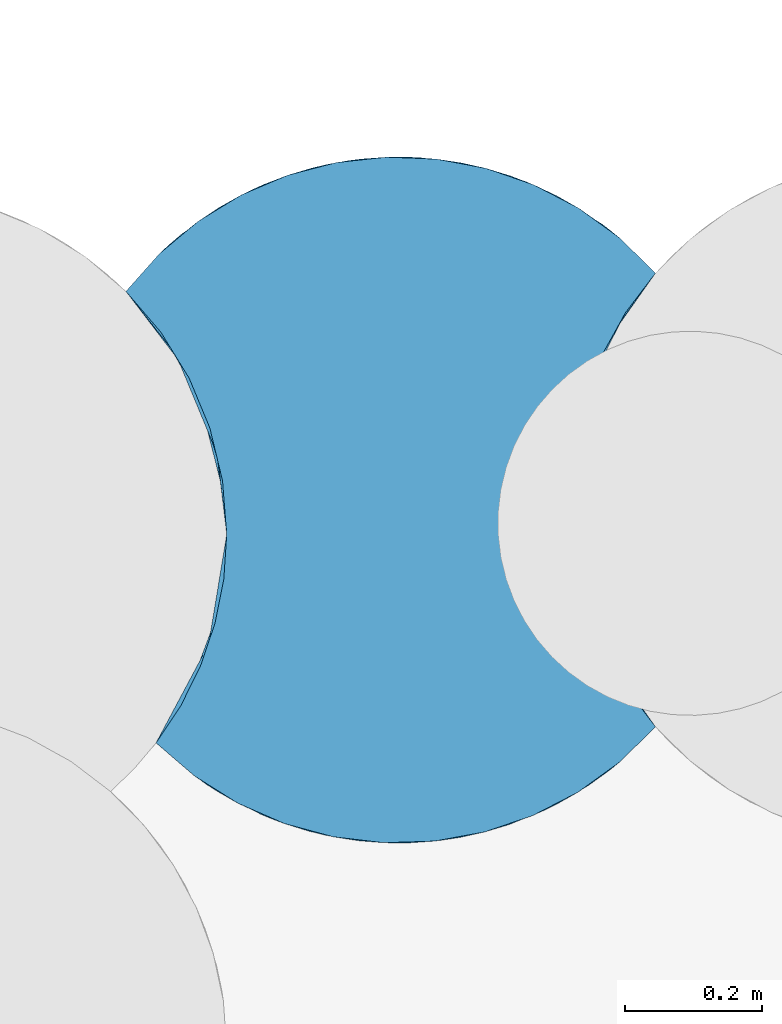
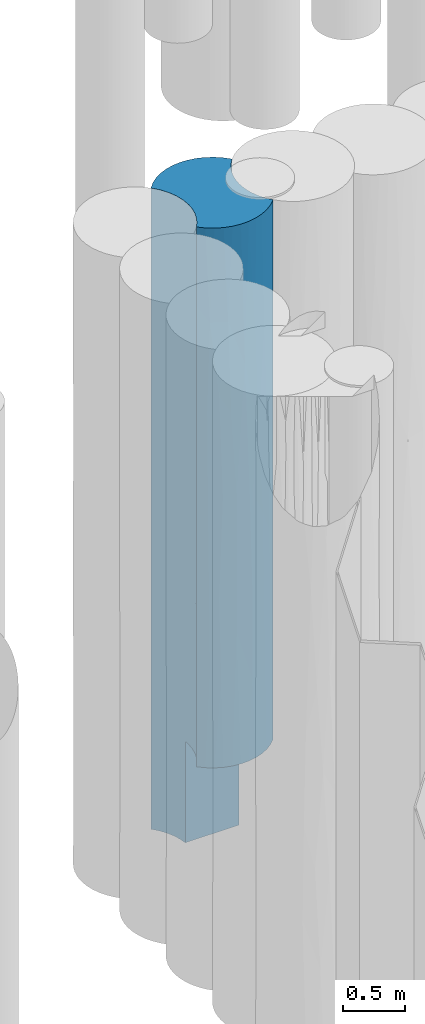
# One storey, part 80 of 104: 1 pile.
"""IFC2X3 building model written with IfcOpenShell, lengths in millimetres."""

from ifc_helpers import new_model, entity, si_unit, converted_unit, derived_unit, direction, frame, origin, place, context, subcontext, project, spatial, faceted_brep, source, transform, mapped, material, element, save


model = new_model("IFC2X3")

# Units and contexts
model_context = context("Model", 3, precision=0.01, world=origin(), true_north=direction((6.12303176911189e-17, 1.0)))
body_context = subcontext(model_context, "Body", "Model", "MODEL_VIEW")
ifc_project = project(units=[si_unit("LENGTHUNIT", "METRE", prefix="MILLI"), si_unit("AREAUNIT", "SQUARE_METRE", prefix="MILLI"), si_unit("VOLUMEUNIT", "CUBIC_METRE"), converted_unit("PLANEANGLEUNIT", "DEGREE", entity("IfcRatioMeasure", 0.0174532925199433), si_unit("PLANEANGLEUNIT", "RADIAN"), dimensions=[0, 0, 0, 0, 0, 0, 0]), si_unit("MASSUNIT", "GRAM", prefix="KILO"), derived_unit("MASSDENSITYUNIT", [(si_unit("MASSUNIT", "GRAM", prefix="KILO"), 1), (si_unit("LENGTHUNIT", "METRE"), -3)]), derived_unit("MOMENTOFINERTIAUNIT", [(si_unit("LENGTHUNIT", "METRE"), 4)]), si_unit("TIMEUNIT", "SECOND"), si_unit("FREQUENCYUNIT", "HERTZ"), si_unit("THERMODYNAMICTEMPERATUREUNIT", "DEGREE_CELSIUS"), derived_unit("THERMALTRANSMITTANCEUNIT", [(si_unit("MASSUNIT", "GRAM", prefix="KILO"), 1), (si_unit("THERMODYNAMICTEMPERATUREUNIT", "KELVIN"), -1), (si_unit("TIMEUNIT", "SECOND"), -3)]), derived_unit("VOLUMETRICFLOWRATEUNIT", [(si_unit("LENGTHUNIT", "METRE"), 3), (si_unit("TIMEUNIT", "SECOND"), -1)]), si_unit("ELECTRICCURRENTUNIT", "AMPERE"), si_unit("ELECTRICVOLTAGEUNIT", "VOLT"), si_unit("POWERUNIT", "WATT"), si_unit("FORCEUNIT", "NEWTON", prefix="KILO"), si_unit("ILLUMINANCEUNIT", "LUX"), si_unit("LUMINOUSFLUXUNIT", "LUMEN"), si_unit("LUMINOUSINTENSITYUNIT", "CANDELA"), derived_unit("USERDEFINED", [(si_unit("MASSUNIT", "GRAM", prefix="KILO"), -1), (si_unit("LENGTHUNIT", "METRE"), -2), (si_unit("TIMEUNIT", "SECOND"), 3), (si_unit("LUMINOUSFLUXUNIT", "LUMEN"), 1)]), derived_unit("LINEARVELOCITYUNIT", [(si_unit("LENGTHUNIT", "METRE"), 1), (si_unit("TIMEUNIT", "SECOND"), -1)]), si_unit("PRESSUREUNIT", "PASCAL"), derived_unit("USERDEFINED", [(si_unit("LENGTHUNIT", "METRE"), -2), (si_unit("MASSUNIT", "GRAM", prefix="KILO"), 1), (si_unit("TIMEUNIT", "SECOND"), -2)]), derived_unit("LINEARFORCEUNIT", [(si_unit("MASSUNIT", "GRAM", prefix="KILO"), 1), (si_unit("LENGTHUNIT", "METRE"), 1), (si_unit("TIMEUNIT", "SECOND"), -2), (si_unit("LENGTHUNIT", "METRE"), -1)]), derived_unit("PLANARFORCEUNIT", [(si_unit("MASSUNIT", "GRAM", prefix="KILO"), 1), (si_unit("LENGTHUNIT", "METRE"), 1), (si_unit("TIMEUNIT", "SECOND"), -2), (si_unit("LENGTHUNIT", "METRE"), -2)])], contexts=[model_context])

# Site, building, storey
site_placement = place(None, origin())
site = spatial("IfcSite", under=ifc_project, at=site_placement, Name="Theater aan de Parade", CompositionType="ELEMENT")
building_placement = place(site_placement, origin())
building = spatial("IfcBuilding", under=site, at=building_placement, Name="Theater aan de Parade", CompositionType="ELEMENT")
storey_placement = place(building_placement, frame((0.0, 0.0, -5520.0)))
storey = spatial("IfcBuildingStorey", under=building, at=storey_placement, Name="-2 kelder", CompositionType="ELEMENT", Elevation=-5520.0)

# Pile
ifc_material = material(Name="00_PBT_MAT_grout")
shared_shape = source(origin(), body_context, "Body", "Brep", [
    faceted_brep([(669.280102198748, 643.692684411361, 0.0), (653.745782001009, 573.172869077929, 0.0), (648.531422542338, 501.150859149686, 0.0), (146.02514109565, 501.150859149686, 0.0), (134.497160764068, 568.782918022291, 0.0), (113.819437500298, 634.200205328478, 0.0), (84.3812906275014, 696.171047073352, 0.0), (46.7369803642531, 753.528658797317, 0.0), (1.59527223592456, 805.19311374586, 0.0), (50.4483015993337, 860.091161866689, 0.0), (106.817064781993, 907.233034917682, 0.0), (169.486265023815, 945.603686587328, 0.0), (237.10234460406, 974.374540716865, 0.0), (308.204958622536, 992.924313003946, 0.0), (381.258495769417, 1000.85241608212, 0.0), (454.685222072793, 997.987603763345, 0.0), (526.899333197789, 984.391668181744, 0.0), (596.341181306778, 960.3581101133, 0.0), (661.510929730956, 926.40581655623, 0.0), (721.00082295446, 883.267969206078, 0.0), (773.531422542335, 831.869773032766, 0.0), (729.804110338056, 774.404290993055, 0.0), (694.810377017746, 711.239442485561, 0.0), (773.531422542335, 831.86977303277, 1598.46190407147), (700.02916138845, 900.023161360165, 1506.2549526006), (773.531422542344, 831.869773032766, 2397.69312325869), (81.6234699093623, 887.892826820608, 3986.32464592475), (137.445814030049, 927.571197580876, 5136.41589520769), (202.765049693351, 961.232946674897, 4107.66645805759), (294.457511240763, 990.199548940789, 4262.67998551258), (294.753755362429, 990.262498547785, 3364.26999112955), (344.585885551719, 998.232219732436, 782.165133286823), (629.550634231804, 944.580812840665, 985.393697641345), (491.04238195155, 992.518056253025, 1341.1254474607), (629.550633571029, 944.580813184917, 2027.11620875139), (64.3630878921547, 873.080320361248, 1757.87392908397), (1.59527223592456, 805.19311374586, 3123.07646876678), (82.130130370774, 888.307445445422, 2894.26996880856), (381.258496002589, 1000.85241609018, 6320.0), (272.312419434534, 984.957394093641, 5136.4161808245), (308.204958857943, 992.924313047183, 6320.0), (596.341181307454, 960.35811011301, 6320.0), (661.510929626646, 926.40581662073, 6320.0), (663.031767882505, 925.461555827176, 5288.51585784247), (773.531422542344, 831.869773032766, 4758.46217122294), (721.000822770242, 883.267969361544, 6320.0), (1.59527223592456, 805.19311374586, 5539.23354895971), (60.2521013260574, 869.345238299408, 5148.84671827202), (1.59527223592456, 805.19311374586, 4758.46709791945), (629.550633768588, 944.580813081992, 4319.67227975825), (562.062370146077, 973.652318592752, 5234.21176799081), (454.685222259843, 997.987603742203, 6320.0), (526.899333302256, 984.391668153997, 6320.0), (773.531422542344, 831.869773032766, 6320.0), (105.365814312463, 906.186568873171, 1031.4656015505), (202.765049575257, 961.232946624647, 1085.77101791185), (418.024558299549, 1000.77073231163, 4758.06670769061), (106.817064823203, 907.233034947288, 6320.0), (585.382827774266, 964.925106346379, 3173.39424534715), (529.474600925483, 983.700218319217, 2301.65075459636), (432.336769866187, 1000.00674865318, 2095.05429116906), (418.024557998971, 1000.77073232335, 3160.0), (1.59527223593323, 805.193113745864, 1561.53823438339), (1.59527223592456, 805.19311374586, 6320.0), (50.4483015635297, 860.091161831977, 6320.0), (137.445813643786, 927.571197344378, 2000.2938123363), (169.486265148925, 945.603686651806, 6320.0), (344.585885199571, 998.23221969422, 1634.20006567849), (241.9439728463, 975.998593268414, 2077.12554301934), (519.812148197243, 986.218880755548, 4227.82771910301), (324.890673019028, 995.698167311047, 2512.50190719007), (237.102344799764, 974.37454078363, 6320.0), (181.338240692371, 951.51418109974, 3014.95239338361), (695.625282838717, 903.314057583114, 2797.30898927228), (709.151045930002, 892.961335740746, 3800.79243316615), (773.531422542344, 831.86977303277, 3196.92434244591), (1.59527223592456, 805.193113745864, 3940.77444949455), (1.59527223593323, 805.19311374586, 4721.53785500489), (232.291799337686, 29.5955732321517, 1000.0), (213.628514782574, 36.5963255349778, 1826.14442974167), (164.409931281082, 59.3509866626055, 1000.0), (720.516371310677, 118.625444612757, 6320.0), (704.336620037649, 105.571308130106, 5465.17765710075), (773.531422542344, 170.431945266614, 5539.2311468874), (773.531422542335, 170.43194526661, 4123.07541245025), (675.788430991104, 85.0636672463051, 4107.15075635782), (488.22849625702, 9.2622183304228, 1793.72766917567), (594.589937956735, 41.1931887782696, 1000.0), (628.142599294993, 56.9901815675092, 2354.42351146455), (132.32201006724, 77.9103262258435, 5386.1372638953), (267.713122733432, 18.5676306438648, 5386.13793971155), (164.423464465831, 59.3438153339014, 6320.0), (340.475419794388, 4.53279610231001, 2308.15990667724), (340.47541987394, 4.53279609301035, 3659.99204726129), (225.924167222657, 31.888954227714, 3660.01304116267), (377.443337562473, 1.59576441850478, 1000.0), (451.523628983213, 3.96696353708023, 1000.0), (132.309122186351, 77.9184327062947, 1933.89177794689), (45.4675728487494, 147.108604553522, 1000.0), (101.672761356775, 98.814016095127, 1000.0), (524.446205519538, 17.2650591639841, 6320.0), (522.450913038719, 16.7502399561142, 5203.07778088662), (594.59296388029, 41.1944786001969, 6320.0), (303.826868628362, 10.2017299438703, 1000.0), (197.798760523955, 43.2137473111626, 2657.53450312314), (197.812529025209, 43.2077122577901, 4662.52996337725), (113.530997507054, 90.3288079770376, 4508.28230003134), (292.604383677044, 12.50020434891, 4481.47810935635), (414.537965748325, 1.40713425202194, 4924.46171028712), (559.963583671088, 27.9282293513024, 4225.68632366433), (660.431911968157, 75.2305219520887, 6320.0), (628.14396243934, 56.990886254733, 5189.64467852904), (303.840135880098, 10.1991708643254, 6320.0), (232.305710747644, 29.590669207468, 6320.0), (524.439926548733, 17.2634253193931, 1000.0), (101.684940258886, 98.8050303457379, 6320.0), (45.4675728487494, 147.108604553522, 6320.0), (45.4675728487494, 147.108604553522, 5539.21149102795), (488.228496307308, 9.26221833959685, 2657.54146388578), (708.328485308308, 108.689676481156, 2244.96593837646), (660.432099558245, 75.230637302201, 1000.0), (720.519207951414, 118.627832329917, 1000.0), (773.531422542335, 170.431945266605, 1000.0), (773.531422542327, 170.431945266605, 2561.53770622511), (705.148329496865, 106.200137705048, 3128.98710293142), (458.492471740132, 4.75920674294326, 3709.95372672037), (377.455000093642, 1.5952722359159, 6320.0), (451.532883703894, 3.96795003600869, 6320.0), (119.555399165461, 86.2142635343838, 3425.82575244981), (611.788200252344, 48.9102741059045, 3353.14422806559), (45.4675728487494, 147.108604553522, 2561.52004826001), (773.531422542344, 170.431945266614, 6320.0), (45.4675728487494, 147.108604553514, 1780.76885312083), (45.4675728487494, 147.108604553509, 4758.46229375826), (45.4675728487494, 147.108604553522, 4123.0590864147), (45.4675728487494, 147.108604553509, 3196.92458751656), (52.7143507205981, 745.491071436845, 6320.0), (93.8460786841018, 678.515889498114, 6320.0), (123.974092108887, 605.922523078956, 6320.0), (142.353928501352, 529.50475253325, 6320.0), (148.531422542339, 451.150859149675, 6320.0), (144.264979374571, 385.972330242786, 6320.0), (131.538460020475, 321.906123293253, 6320.0), (110.569052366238, 260.04557762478, 6320.0), (81.7146155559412, 201.446391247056, 6320.0), (729.804110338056, 227.897427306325, 6320.0), (694.810377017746, 291.062275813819, 6320.0), (669.280102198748, 358.609033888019, 6320.0), (653.745782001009, 429.128849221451, 6320.0), (648.531422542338, 501.15085914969, 6320.0), (653.745782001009, 573.172869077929, 6320.0), (669.280102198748, 643.692684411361, 6320.0), (694.810377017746, 711.239442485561, 6320.0), (729.804110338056, 774.404290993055, 6320.0), (721.102151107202, 760.581423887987, 1828.52230390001), (711.165461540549, 743.454421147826, 1002.25157471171), (680.824249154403, 677.92755433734, 5355.17937409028), (671.409705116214, 650.66629902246, 929.570312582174), (715.989740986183, 751.964921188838, 4844.99936183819), (658.227252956, 599.139742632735, 4844.9993624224), (680.824249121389, 677.927554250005, 4334.81935013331), (648.531422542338, 501.15085914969, 1000.0), (723.184164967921, 763.981052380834, 3842.56160797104), (648.531422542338, 501.15085914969, 4758.48418358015), (655.545193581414, 584.604906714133, 1600.95907645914), (648.531422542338, 501.15085914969, 2098.48418358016), (648.531422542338, 501.15085914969, 1780.7710240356), (676.303358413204, 665.469620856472, 3078.94410181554), (655.675147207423, 585.368979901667, 3842.56161014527), (680.824249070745, 677.927554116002, 1823.06885334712), (717.577020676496, 754.68252090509, 2931.36428802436), (648.531422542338, 501.15085914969, 3196.93362589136), (711.165461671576, 258.847296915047, 5404.38906469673), (660.238210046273, 393.588139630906, 5404.38906448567), (655.835360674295, 416.000459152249, 2802.03581962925), (660.238210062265, 393.588139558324, 1947.59403617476), (680.824249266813, 324.374163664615, 2700.69910412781), (711.16546170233, 258.847296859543, 1947.59403599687), (669.280102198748, 358.609033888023, 1000.0), (653.745782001, 429.128849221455, 1000.0), (722.798213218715, 238.946293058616, 4541.1974390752), (674.107764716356, 343.283215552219, 3696.32218316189), (718.394458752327, 246.234809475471, 3449.75322939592), (694.810377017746, 291.062275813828, 1000.0), (729.804110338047, 227.897427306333, 1000.0), (680.82424922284, 324.374163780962, 4691.94526257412), (656.366992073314, 412.979586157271, 4333.70688058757), (81.7146155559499, 201.44639124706, 1000.0), (110.569052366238, 260.045577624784, 1000.0), (131.538460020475, 321.906123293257, 1000.0), (144.264979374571, 385.97233024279, 1000.0), (148.531422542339, 451.150859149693, 1000.0), (147.904459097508, 476.1822466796, 1000.0), (146.02514109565, 501.150859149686, 1000.0), (74.5982653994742, 712.812941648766, 5305.76166276), (137.247945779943, 556.773583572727, 2031.91312827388), (110.33869986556, 642.81211921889, 4507.83280956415), (134.667888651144, 568.075348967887, 5305.76166664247), (66.5440861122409, 725.496285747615, 935.17204429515), (100.164533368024, 665.691142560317, 1694.12834463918), (110.363320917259, 642.752784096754, 860.650469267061), (148.531422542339, 451.150859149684, 5539.23113672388), (62.3738676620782, 731.747421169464, 4391.64493333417), (104.601654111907, 656.089737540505, 2589.24070859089), (133.987218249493, 570.869990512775, 3342.30657122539), (148.53142254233, 451.150859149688, 2561.53772655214), (148.531422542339, 451.150859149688, 4123.07545310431), (57.0738603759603, 739.409556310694, 2411.9905592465), (139.266468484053, 546.958555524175, 4399.35631100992), (83.1736566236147, 698.306940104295, 3377.45506581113), (92.0872790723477, 220.373472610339, 3977.69344070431), (122.064987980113, 290.633064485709, 2473.80719834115), (122.064987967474, 290.633064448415, 4846.19280112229), (134.654856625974, 334.172199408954, 3790.74748719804)], [[[0, 1, 2, 3, 4, 5, 6, 7, 8, 9, 10, 11, 12, 13, 14, 15, 16, 17, 18, 19, 20, 21, 22]], [[23, 24, 25]], [[26, 27, 28]], [[28, 29, 30]], [[31, 15, 14]], [[19, 18, 32]], [[33, 34, 32]], [[35, 36, 37]], [[15, 33, 16]], [[38, 39, 40]], [[41, 42, 43]], [[24, 19, 32]], [[44, 43, 45]], [[15, 31, 33]], [[18, 17, 32]], [[46, 47, 48]], [[49, 50, 43]], [[51, 52, 50]], [[53, 44, 45]], [[20, 19, 23]], [[43, 50, 41]], [[11, 54, 55]], [[52, 41, 50]], [[14, 13, 31]], [[56, 38, 51]], [[47, 57, 27]], [[58, 34, 59]], [[33, 60, 59]], [[61, 30, 29]], [[9, 8, 62]], [[63, 64, 46]], [[65, 55, 54]], [[66, 27, 57]], [[67, 55, 68]], [[54, 11, 10]], [[64, 57, 47]], [[55, 12, 11]], [[39, 38, 56]], [[61, 69, 58]], [[28, 27, 39]], [[56, 50, 69]], [[62, 54, 9]], [[68, 30, 70]], [[40, 39, 71]], [[39, 66, 71]], [[37, 26, 72]], [[66, 39, 27]], [[73, 58, 74]], [[31, 12, 55]], [[73, 74, 75]], [[32, 16, 33]], [[69, 50, 49]], [[51, 50, 56]], [[68, 55, 65]], [[55, 67, 31]], [[32, 17, 16]], [[24, 32, 34]], [[31, 13, 12]], [[33, 31, 67]], [[26, 28, 72]], [[26, 36, 76, 77, 48]], [[58, 69, 49]], [[61, 56, 69]], [[73, 24, 34]], [[34, 33, 59]], [[65, 72, 68]], [[72, 30, 68]], [[72, 65, 37]], [[30, 72, 28]], [[28, 39, 29]], [[70, 67, 68]], [[37, 65, 35]], [[39, 56, 29]], [[45, 43, 42]], [[74, 43, 44]], [[9, 54, 10]], [[35, 65, 54]], [[25, 24, 73]], [[19, 24, 23]], [[25, 73, 75]], [[34, 58, 73]], [[74, 58, 49]], [[43, 74, 49]], [[44, 75, 74]], [[54, 62, 35]], [[35, 62, 36]], [[30, 61, 70]], [[60, 70, 61]], [[60, 33, 67]], [[61, 58, 59]], [[70, 60, 67]], [[61, 59, 60]], [[47, 26, 48]], [[64, 47, 46]], [[26, 47, 27]], [[36, 26, 37]], [[61, 29, 56]], [[78, 79, 80]], [[81, 82, 83]], [[84, 82, 85]], [[86, 87, 88]], [[89, 90, 91]], [[92, 93, 94]], [[95, 96, 86]], [[97, 98, 99]], [[100, 101, 102]], [[92, 103, 95]], [[79, 104, 97]], [[92, 95, 86]], [[90, 89, 105]], [[92, 104, 79]], [[106, 105, 89]], [[107, 108, 90]], [[108, 109, 101]], [[110, 102, 111]], [[90, 112, 113]], [[91, 90, 113]], [[96, 114, 86]], [[115, 116, 117]], [[118, 93, 92, 86]], [[119, 120, 121]], [[109, 111, 101]], [[87, 120, 88]], [[83, 82, 84]], [[80, 97, 99]], [[122, 123, 119]], [[119, 123, 124]], [[125, 108, 93]], [[82, 110, 111]], [[126, 108, 127]], [[93, 107, 94]], [[128, 104, 94]], [[92, 79, 103]], [[127, 108, 101]], [[88, 129, 118]], [[130, 97, 128]], [[91, 115, 89]], [[111, 109, 85]], [[125, 93, 118]], [[86, 88, 118]], [[90, 126, 112]], [[84, 85, 124]], [[131, 81, 83]], [[107, 90, 105]], [[126, 90, 108]], [[128, 97, 104]], [[97, 130, 132, 98]], [[115, 117, 89]], [[106, 117, 133, 134]], [[86, 114, 87]], [[109, 129, 85]], [[85, 129, 124]], [[94, 107, 105]], [[108, 107, 93]], [[106, 128, 94]], [[94, 104, 92]], [[106, 94, 105]], [[128, 134, 135, 130]], [[117, 106, 89]], [[128, 106, 134]], [[102, 101, 111]], [[127, 101, 100]], [[80, 79, 97]], [[79, 78, 103]], [[129, 109, 125]], [[88, 119, 124]], [[88, 124, 129]], [[84, 124, 123]], [[120, 119, 88]], [[122, 119, 121]], [[110, 82, 81]], [[85, 82, 111]], [[129, 125, 118]], [[108, 125, 109]], [[42, 41, 52, 51, 38, 40, 71, 66, 57, 64, 63, 136, 137, 138, 139, 140, 141, 142, 143, 144, 116, 115, 91, 113, 112, 126, 127, 100, 102, 110, 81, 131, 145, 146, 147, 148, 149, 150, 151, 152, 153, 53, 45]], [[154, 155, 23]], [[153, 152, 156]], [[23, 155, 20]], [[150, 156, 151]], [[22, 157, 0]], [[44, 153, 158]], [[156, 150, 159]], [[152, 151, 156]], [[153, 44, 53]], [[160, 156, 159]], [[161, 1, 157]], [[162, 158, 160]], [[163, 150, 149]], [[2, 1, 161]], [[164, 165, 166, 161]], [[167, 162, 160]], [[155, 157, 22]], [[168, 159, 163]], [[158, 156, 160]], [[21, 155, 22]], [[169, 155, 154]], [[169, 157, 155]], [[20, 155, 21]], [[75, 162, 170]], [[156, 158, 153]], [[75, 44, 162]], [[158, 162, 44]], [[167, 170, 162]], [[167, 164, 169]], [[171, 167, 168]], [[154, 23, 25, 75]], [[170, 167, 169]], [[160, 159, 168]], [[163, 159, 150]], [[160, 168, 167]], [[171, 168, 163]], [[0, 157, 1]], [[165, 167, 171]], [[169, 164, 157]], [[157, 164, 161]], [[165, 164, 167]], [[154, 170, 169]], [[170, 154, 75]], [[146, 172, 173, 147]], [[145, 131, 83]], [[166, 174, 175]], [[176, 177, 175]], [[178, 179, 175]], [[180, 172, 83]], [[173, 163, 149]], [[176, 181, 182]], [[123, 177, 182]], [[146, 145, 172]], [[178, 175, 177, 183]], [[184, 177, 122]], [[148, 147, 173]], [[183, 177, 184]], [[172, 185, 173]], [[182, 180, 84]], [[122, 177, 123]], [[171, 186, 174]], [[84, 123, 182]], [[166, 179, 161]], [[176, 175, 174]], [[175, 179, 166]], [[148, 173, 149]], [[163, 173, 186]], [[185, 172, 180]], [[172, 145, 83]], [[180, 182, 181]], [[84, 180, 83]], [[185, 180, 181]], [[177, 176, 182]], [[185, 181, 186]], [[174, 186, 181]], [[185, 186, 173]], [[163, 186, 171]], [[176, 174, 181]], [[174, 166, 165, 171]], [[161, 179, 178, 183, 184, 122, 121, 120, 87, 114, 96, 95, 103, 78, 80, 99, 98, 187, 188, 189, 190, 191, 192, 193]], [[161, 193, 3, 2]], [[4, 3, 193]], [[136, 194, 137]], [[193, 192, 195]], [[196, 197, 194]], [[7, 198, 8]], [[199, 198, 200]], [[200, 6, 5]], [[8, 198, 62]], [[63, 194, 136]], [[6, 198, 7]], [[200, 5, 4]], [[197, 201, 139]], [[202, 194, 77]], [[199, 195, 203]], [[138, 137, 197]], [[204, 205, 206]], [[36, 62, 207]], [[204, 208, 196]], [[192, 191, 205]], [[208, 197, 196]], [[201, 140, 139]], [[138, 197, 139]], [[137, 194, 197]], [[209, 204, 196]], [[196, 194, 202]], [[6, 200, 198]], [[194, 63, 46, 48, 77]], [[62, 198, 207]], [[206, 201, 208]], [[203, 195, 204]], [[36, 207, 209]], [[199, 203, 207]], [[202, 77, 76, 36]], [[199, 200, 195]], [[193, 200, 4]], [[202, 209, 196]], [[209, 202, 36]], [[197, 208, 201]], [[206, 208, 204]], [[209, 207, 203]], [[198, 199, 207]], [[203, 204, 209]], [[205, 204, 195]], [[205, 195, 192]], [[193, 195, 200]], [[210, 135, 134, 133]], [[141, 140, 201]], [[205, 191, 190]], [[211, 132, 130, 135]], [[210, 212, 213]], [[187, 132, 211]], [[212, 143, 142]], [[133, 212, 210]], [[144, 133, 117, 116]], [[187, 98, 132]], [[206, 213, 212]], [[141, 201, 212]], [[213, 206, 205]], [[143, 212, 144]], [[211, 189, 188]], [[144, 212, 133]], [[212, 142, 141]], [[206, 212, 201]], [[210, 211, 135]], [[190, 189, 211]], [[188, 187, 211]], [[205, 190, 211]], [[213, 211, 210]], [[211, 213, 205]]]),
])
pile_placement = place(storey_placement, frame((74151.4685774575, 20202.8251599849, -3840.0)))
element("IfcPile", 1, at=pile_placement, inside=storey, material=ifc_material, Name="17_PBT_SFO_grondkering_rond:Ø1000 (grondkering)", ObjectType="17_PBT_SFO_grondkering_rond:Ø1000 (grondkering)", PredefinedType="NOTDEFINED", context=body_context, shape_type="MappedRepresentation", body=[
    mapped(shared_shape, transform((0.0, 0.0, 0.0), scale=1.0)),
])

save(model, "model.ifc")
